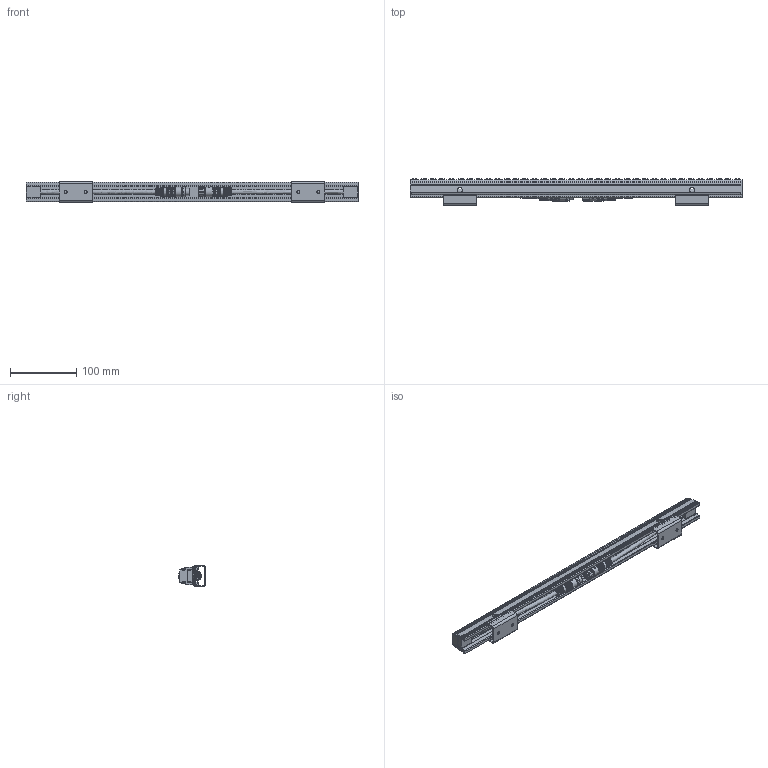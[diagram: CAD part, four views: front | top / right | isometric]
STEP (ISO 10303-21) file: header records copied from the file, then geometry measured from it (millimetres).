
FILE_DESCRIPTION (( 'STEP AP214' ), '1' );
FILE_NAME ('DiGi Linear M-Serie L500.STEP', '2025-08-11T07:14:54', ( '' ), ( '' ), 'SwSTEP 2.0', 'SolidWorks 2025', '' );
FILE_SCHEMA (( 'AUTOMOTIVE_DESIGN' ));
Length unit declared in the file: millimetre
Products named in the file (7): Counter sunk screw torx_M2x6; DiGi Linear M-Series - Body_L500; M12 3p Female; Part1^DiGi Linear M-Serie_L500; DiGi Linear M-Serie L500; M12 3p Male; DiGi Linear M-Series - Bracket
Assembly tree (14 placements, depth 2):
  DiGi Linear M-Serie L500
    DiGi Linear M-Series - Body_L500
    DiGi Linear M-Series - Bracket  x2
    M12 3p Female
    M12 3p Male
    Part1^DiGi Linear M-Serie_L500
    Counter sunk screw torx_M2x6  x8
Bounding box: 500 x 39.95 x 31.2 mm (x, y, z)
Volume: 224545.4 mm3; surface area: 122254.8 mm2
Topology: 15 solids, 51 shells, 3116 faces, 7209 edges, 4374 vertices
Faces by surface type: plane 1229, cylinder 1154, sphere 296, bspline 188, torus 161, cone 88
Full cylindrical faces by diameter (mm): 2 x12, 3 x8, 4.5 x40, 8 x4, 9.7 x1, 10.8 x1, 12.3 x1, 14.3 x2
Entity records: 99587 total; most frequent: CARTESIAN_POINT 25832, ORIENTED_EDGE 13292, DIRECTION 13072, EDGE_CURVE 6646, AXIS2_PLACEMENT_3D 4804, VERTEX_POINT 4054, LINE 3464, VECTOR 3464
